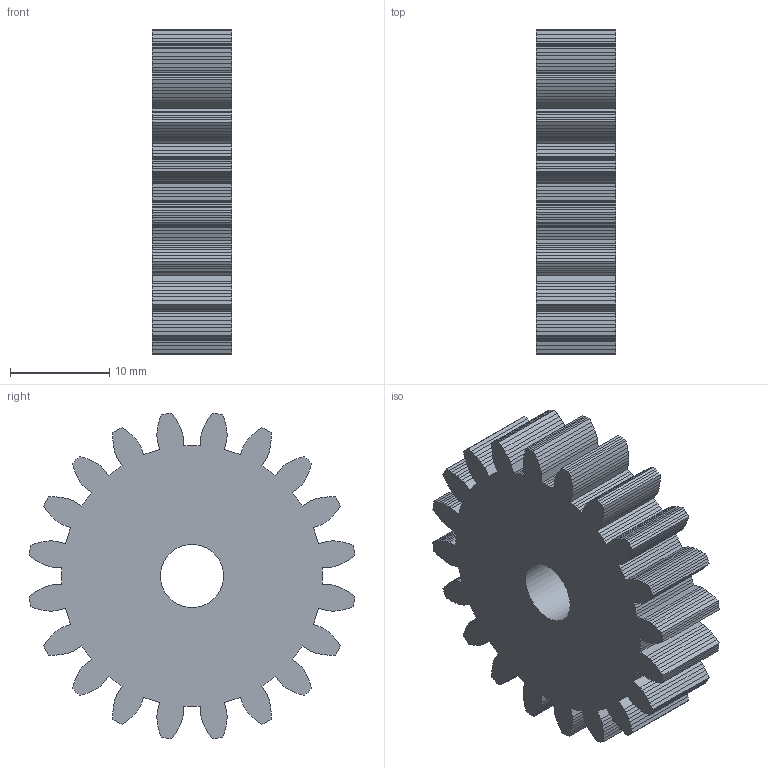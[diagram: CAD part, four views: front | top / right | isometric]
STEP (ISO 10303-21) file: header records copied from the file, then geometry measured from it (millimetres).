
FILE_DESCRIPTION(('Open CASCADE Model'),'2;1');
FILE_NAME('Open CASCADE Shape Model','2026-10-16T00:24:49',('Author'),( 'Open CASCADE'),'Open CASCADE STEP processor 7.9','Open CASCADE 7.9' ,'Unknown');
FILE_SCHEMA(('AUTOMOTIVE_DESIGN { 1 0 10303 214 1 1 1 1 }'));
Length unit declared in the file: millimetre
Products named in the file (1): Open CASCADE STEP translator 7.9 12
Bounding box: 8 x 32.74 x 32.74 mm (x, y, z)
Volume: 5261.9 mm3; surface area: 3054.4 mm2
Topology: 1 solids, 1 shells, 503 faces, 1503 edges, 1002 vertices
Faces by surface type: plane 502, cylinder 1
Full cylindrical faces by diameter (mm): 6.35 x1
Entity records: 36118 total; most frequent: CARTESIAN_POINT 6027, DIRECTION 5517, LINE 4505, VECTOR 4505, ORIENTED_EDGE 3006, PCURVE 3006, DEFINITIONAL_REPRESENTATION 3006, EDGE_CURVE 1503
